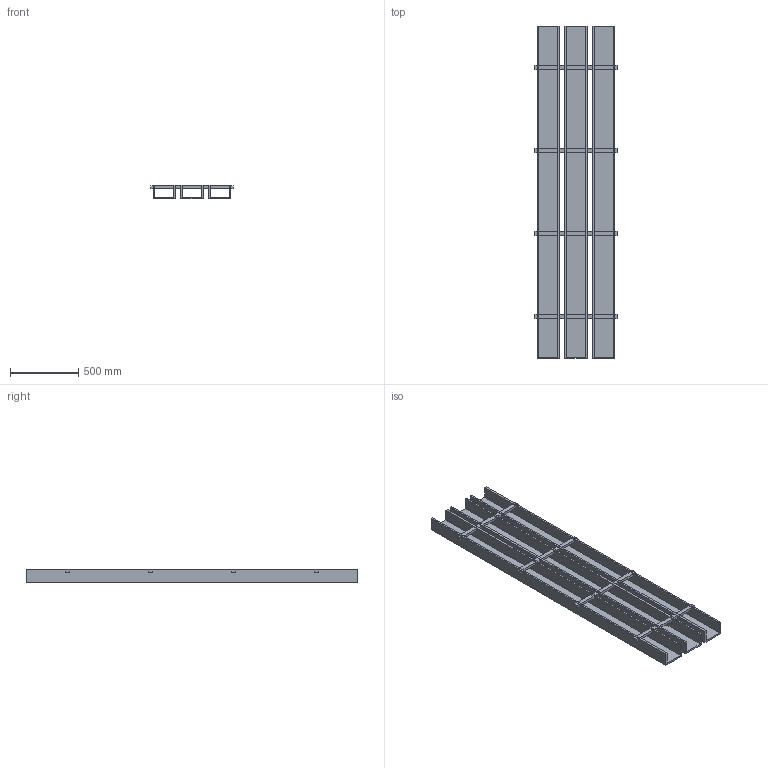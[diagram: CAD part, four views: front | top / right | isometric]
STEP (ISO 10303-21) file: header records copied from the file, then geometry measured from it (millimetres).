
FILE_DESCRIPTION(/* description */ (''),/* implementation_level */ '2;1');
FILE_NAME(/* name */ 'PET GRILLA_6.5x4_8ft',/* time_stamp */ '2024-10-15T14:22:54-05:00',/* author */ (''),/* organization */ (''),/* preprocessor_version */ 'ST-DEVELOPER v19.2',/* originating_system */ 'Rhino 8.4',/* authorisation */ '');
FILE_SCHEMA (('CONFIG_CONTROL_DESIGN'));
Length unit declared in the file: inch
Products named in the file (1): Document
Bounding box: 603.25 x 2438.4 x 101.6 mm (x, y, z)
Volume: 33131570.8 mm3; surface area: 5418698.8 mm2
Topology: 1 solids, 1 shells, 150 faces, 408 edges, 272 vertices
Faces by surface type: plane 150
Entity records: 4234 total; most frequent: CARTESIAN_POINT 1240, ORIENTED_EDGE 816, EDGE_CURVE 408, B_SPLINE_CURVE_WITH_KNOTS 408, VERTEX_POINT 272, EDGE_LOOP 198, DIRECTION 154, AXIS2_PLACEMENT_3D 152
